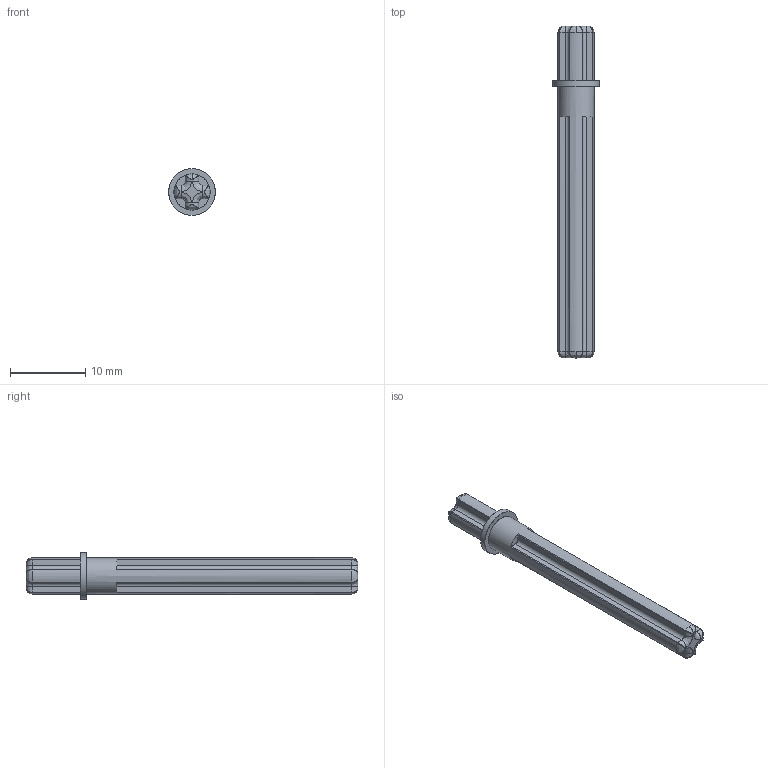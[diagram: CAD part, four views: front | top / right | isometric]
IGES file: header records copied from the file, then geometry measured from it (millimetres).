
Start section: C
Global section: file name: Gray_4508553_JCA.iges; native system: By Siemens PLM Incorporated; preprocessor: XPlus GENERIC/IGES 26.1.183; author: Author; organization: Title; date: 20250721.235913; units: millimetre
Bounding box: 6.19 x 44 x 6.2 mm (x, y, z)
Surface area: 791.3 mm2 (no closed solid volume)
Topology: 0 solids, 0 shells, 105 faces, 500 edges, 484 vertices
Faces by surface type: bspline 105
